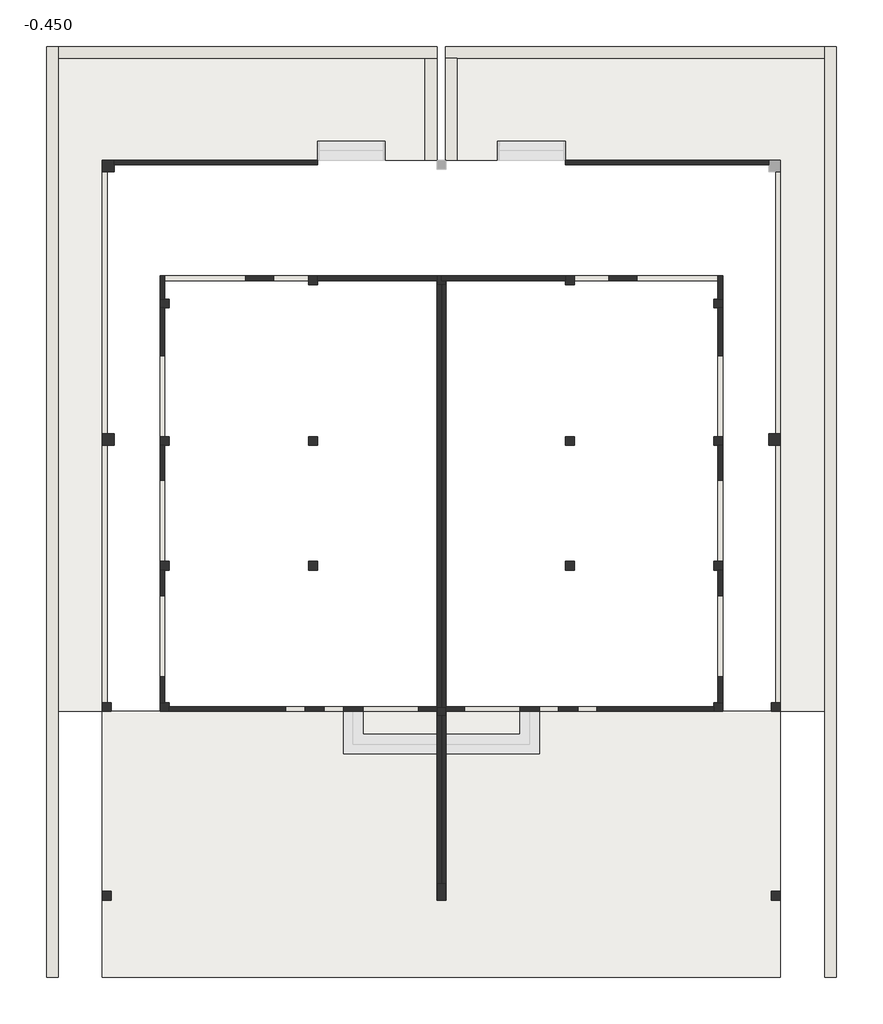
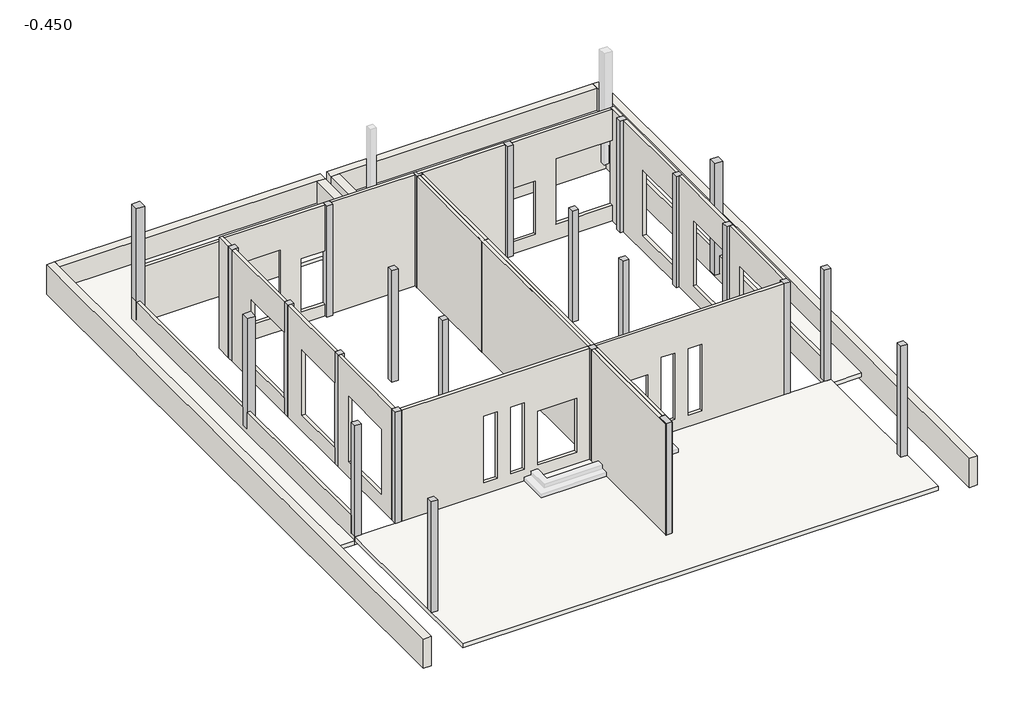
# One storey, part 1 of 2: 26 columns, 18 walls, 2 slabs.
"""IFC4 building model written with IfcOpenShell, lengths in millimetres."""

from ifc_helpers import new_model, si_unit, frame, origin, place, context, project, spatial, polyline, outline, extrude, faceted_brep, transform, mapped, element, save
from components import z2_b35763e6, z2_4422c3f5

model = new_model("IFC4")

# Units and contexts
model_context = context("Model", 3, world=origin())
ifc_project = project(units=[si_unit("LENGTHUNIT", "METRE", prefix="MILLI")], contexts=[model_context])

# Site, building, storey
site = spatial("IfcSite", under=ifc_project)
building = spatial("IfcBuilding", under=site)
storey = spatial("IfcBuildingStorey", under=building, Name="-0.450", Elevation=-450.0)

# Columns
placement = place(None, origin())
element("IfcColumn", 1, ObjectType="混凝土 - 矩形 - 柱 : Z1", at=placement, inside=storey, context=model_context, shape_type="Brep", body=[
    faceted_brep([(-7384.0293904, 9188.7732284, -450.0), (-7384.0293904, 8888.7732284, -450.0), (-7564.0293904, 8888.7732284, -450.0), (-7684.0293904, 8888.7732284, -450.0), (-7684.0293904, 9188.7732284, -450.0), (-7564.0293904, 9188.7732284, -450.0), (-7384.0293904, 9188.7732284, 3900.0), (-7384.0293904, 8888.7732284, 3900.0), (-7684.0293904, 8888.7732284, 3900.0), (-7684.0293904, 8888.7732284, 250.0), (-7684.0293904, 9188.7732284, 3900.0), (-7684.0293904, 9188.7732284, 250.0)], [[[0, 1, 2, 3, 4, 5]], [[6, 7, 1, 0]], [[7, 8, 9, 3, 2, 1]], [[8, 10, 11, 4, 3, 9]], [[10, 6, 0, 5, 4, 11]], [[6, 10, 8, 7]]]),
])
element("IfcColumn", 2, ObjectType="混凝土 - 矩形 - 柱 : Z1", at=placement, inside=storey, context=model_context, shape_type="Brep", body=[
    faceted_brep([(-7384.0293904, 16288.7732284, -450.0), (-7384.0293904, 16168.7732284, -450.0), (-7384.0293904, 15988.7732284, -450.0), (-7684.0293904, 15988.7732284, -450.0), (-7684.0293904, 16288.7732284, -450.0), (-7564.0293904, 16288.7732284, -450.0), (-7384.0293904, 16288.7732284, 3900.0), (-7384.0293904, 15988.7732284, 3900.0), (-7384.0293904, 16288.7732284, 1400.0), (-7684.0293904, 15988.7732284, 3900.0), (-7684.0293904, 16288.7732284, 3900.0)], [[[0, 1, 2, 3, 4, 5]], [[6, 7, 2, 1, 0, 8]], [[7, 9, 3, 2]], [[9, 10, 4, 3]], [[10, 6, 8, 0, 5, 4]], [[6, 10, 9, 7]]]),
])
element("IfcColumn", 3, ObjectType="混凝土 - 矩形 - 柱 : Z1", at=placement, inside=storey, context=model_context, shape_type="Brep", body=[
    faceted_brep([(9615.9706096, 9188.7732284, -450.0), (9795.9706096, 9188.7732284, -450.0), (9915.9706096, 9188.7732284, -450.0), (9915.9706096, 8888.7732284, -450.0), (9795.9706096, 8888.7732284, -450.0), (9615.9706096, 8888.7732284, -450.0), (9615.9706096, 9188.7732284, 3900.0), (9615.9706096, 8888.7732284, 3900.0), (9915.9706096, 8888.7732284, 250.0), (9915.9706096, 8888.7732284, 3900.0), (9915.9706096, 9188.7732284, 250.0), (9915.9706096, 9188.7732284, 3900.0)], [[[0, 1, 2, 3, 4, 5]], [[6, 0, 5, 7]], [[7, 5, 4, 3, 8, 9]], [[9, 8, 3, 2, 10, 11]], [[11, 10, 2, 1, 0, 6]], [[6, 7, 9, 11]]]),
])
element("IfcColumn", 4, ObjectType="混凝土 - 矩形 - 柱 : Z2", at=placement, inside=storey, context=model_context, shape_type="Brep", body=[
    faceted_brep([(-5954.0293904, 2218.7732284, -450.0), (-5954.0293904, 1988.7732284, -450.0), (-6184.0293904, 1988.7732284, -450.0), (-6184.0293904, 2218.7732284, -450.0), (-6064.0293904, 2218.7732284, -450.0), (-5954.0293904, 2218.7732284, 3900.0), (-5954.0293904, 1988.7732284, 3900.0), (-6184.0293904, 1988.7732284, 3900.0), (-6184.0293904, 2218.7732284, 3900.0), (-6064.0293904, 2218.7732284, 3900.0)], [[[0, 1, 2, 3, 4]], [[5, 6, 1, 0]], [[6, 7, 2, 1]], [[7, 8, 3, 2]], [[8, 9, 5, 0, 4, 3]], [[5, 9, 8, 7, 6]]]),
])
element("IfcColumn", 5, ObjectType="混凝土 - 矩形 - 柱 : Z2", at=placement, inside=storey, context=model_context, shape_type="Brep", body=[
    faceted_brep([(-7454.0293904, 2218.7732284, -450.0), (-7454.0293904, 1988.7732284, -450.0), (-7564.0293904, 1988.7732284, -450.0), (-7684.0293904, 1988.7732284, -450.0), (-7684.0293904, 2218.7732284, -450.0), (-7564.0293904, 2218.7732284, -450.0), (-7454.0293904, 2218.7732284, 3900.0), (-7454.0293904, 1988.7732284, 3900.0), (-7684.0293904, 1988.7732284, 3900.0), (-7684.0293904, 2218.7732284, 3900.0), (-7684.0293904, 2218.7732284, 250.0)], [[[0, 1, 2, 3, 4, 5]], [[6, 7, 1, 0]], [[7, 8, 3, 2, 1]], [[8, 9, 10, 4, 3]], [[9, 6, 0, 5, 4, 10]], [[6, 9, 8, 7]]]),
])
element("IfcColumn", 6, ObjectType="混凝土 - 矩形 - 柱 : Z2", at=placement, inside=storey, context=model_context, shape_type="Brep", body=[
    faceted_brep([(1230.9706096, 2103.7732284, -450.0), (1230.9706096, 1873.7732284, -450.0), (1115.9706096, 1873.7732284, -450.0), (1000.9706096, 1873.7732284, -450.0), (1000.9706096, 2103.7732284, -450.0), (1115.9706096, 2103.7732284, -450.0), (1230.9706096, 2103.7732284, 3900.0), (1230.9706096, 1873.7732284, 3900.0), (1115.9706096, 1873.7732284, 3900.0), (1000.9706096, 1873.7732284, 3900.0), (1000.9706096, 2103.7732284, 3900.0), (1115.9706096, 2103.7732284, 3900.0)], [[[0, 1, 2, 3, 4, 5]], [[6, 7, 1, 0]], [[7, 8, 9, 3, 2, 1]], [[9, 10, 4, 3]], [[10, 11, 6, 0, 5, 4]], [[6, 11, 10, 9, 8, 7]]]),
])
element("IfcColumn", 7, ObjectType="混凝土 - 矩形 - 柱 : Z2", at=placement, inside=storey, context=model_context, shape_type="Brep", body=[
    faceted_brep([(-5954.0293904, 5888.7732284, -450.0), (-5954.0293904, 5658.7732284, -450.0), (-6064.0293904, 5658.7732284, -450.0), (-6184.0293904, 5658.7732284, -450.0), (-6184.0293904, 5888.7732284, -450.0), (-6064.0293904, 5888.7732284, -450.0), (-5954.0293904, 5888.7732284, 3900.0), (-5954.0293904, 5658.7732284, 3900.0), (-6064.0293904, 5658.7732284, 3900.0), (-6184.0293904, 5658.7732284, 3900.0), (-6184.0293904, 5888.7732284, 3900.0), (-6184.0293904, 5888.7732284, 2700.0), (-6184.0293904, 5888.7732284, 150.0), (-6064.0293904, 5888.7732284, 3900.0)], [[[0, 1, 2, 3, 4, 5]], [[6, 7, 1, 0]], [[7, 8, 9, 3, 2, 1]], [[9, 10, 11, 12, 4, 3]], [[10, 13, 6, 0, 5, 4, 12, 11]], [[6, 13, 10, 9, 8, 7]]]),
])
element("IfcColumn", 8, ObjectType="混凝土 - 矩形 - 柱 : Z2", at=placement, inside=storey, context=model_context, shape_type="Brep", body=[
    faceted_brep([(-5954.0293904, 9118.7732284, -450.0), (-5954.0293904, 8888.7732284, -450.0), (-6064.0293904, 8888.7732284, -450.0), (-6184.0293904, 8888.7732284, -450.0), (-6184.0293904, 9118.7732284, -450.0), (-6064.0293904, 9118.7732284, -450.0), (-5954.0293904, 9118.7732284, 3900.0), (-5954.0293904, 8888.7732284, 3900.0), (-6064.0293904, 8888.7732284, 3900.0), (-6184.0293904, 8888.7732284, 3900.0), (-6184.0293904, 9118.7732284, 3900.0), (-6184.0293904, 9118.7732284, 2700.0), (-6184.0293904, 9118.7732284, 150.0), (-6064.0293904, 9118.7732284, 3900.0)], [[[0, 1, 2, 3, 4, 5]], [[6, 7, 1, 0]], [[7, 8, 9, 3, 2, 1]], [[9, 10, 11, 12, 4, 3]], [[10, 13, 6, 0, 5, 4, 12, 11]], [[6, 13, 10, 9, 8, 7]]]),
])
element("IfcColumn", 9, ObjectType="混凝土 - 矩形 - 柱 : Z2", at=placement, inside=storey, context=model_context, shape_type="Brep", body=[
    faceted_brep([(-2104.0293904, 13288.7732284, -450.0), (-2104.0293904, 13168.7732284, -450.0), (-2104.0293904, 13058.7732284, -450.0), (-2334.0293904, 13058.7732284, -450.0), (-2334.0293904, 13168.7732284, -450.0), (-2334.0293904, 13288.7732284, -450.0), (-2104.0293904, 13288.7732284, 3900.0), (-2104.0293904, 13168.7732284, 3900.0), (-2104.0293904, 13058.7732284, 3900.0), (-2334.0293904, 13058.7732284, 3900.0), (-2334.0293904, 13168.7732284, 3900.0), (-2334.0293904, 13288.7732284, 3900.0), (-2334.0293904, 13288.7732284, 2100.0), (-2334.0293904, 13288.7732284, 0.0)], [[[0, 1, 2, 3, 4, 5]], [[6, 7, 8, 2, 1, 0]], [[8, 9, 3, 2]], [[9, 10, 11, 12, 13, 5, 4, 3]], [[11, 6, 0, 5, 13, 12]], [[6, 11, 10, 9, 8, 7]]]),
])
element("IfcColumn", 10, ObjectType="混凝土 - 矩形 - 柱 : Z2", at=placement, inside=storey, context=model_context, shape_type="Brep", body=[
    faceted_brep([(1230.9706096, 13288.7732284, -450.0), (1230.9706096, 13168.7732284, -450.0), (1230.9706096, 13058.7732284, -450.0), (1115.9706096, 13058.7732284, -450.0), (1000.9706096, 13058.7732284, -450.0), (1000.9706096, 13168.7732284, -450.0), (1000.9706096, 13288.7732284, -450.0), (1230.9706096, 13288.7732284, 3900.0), (1230.9706096, 13168.7732284, 3900.0), (1230.9706096, 13058.7732284, 3900.0), (1230.9706096, 13288.7732284, 0.0), (1115.9706096, 13058.7732284, 3900.0), (1000.9706096, 13058.7732284, 3900.0), (1000.9706096, 13168.7732284, 3900.0), (1000.9706096, 13288.7732284, 3900.0), (1110.9706096, 13288.7732284, 3900.0)], [[[0, 1, 2, 3, 4, 5, 6]], [[7, 8, 9, 2, 1, 0, 10]], [[9, 11, 12, 4, 3, 2]], [[12, 13, 14, 6, 5, 4]], [[14, 15, 7, 10, 0, 6]], [[7, 15, 14, 13, 12, 11, 9, 8]]]),
])
element("IfcColumn", 11, ObjectType="混凝土 - 矩形 - 柱 : Z2", at=placement, inside=storey, context=model_context, shape_type="Brep", body=[
    faceted_brep([(-5954.0293904, 12688.7732284, -450.0), (-5954.0293904, 12458.7732284, -450.0), (-6064.0293904, 12458.7732284, -450.0), (-6184.0293904, 12458.7732284, -450.0), (-6184.0293904, 12688.7732284, -450.0), (-6064.0293904, 12688.7732284, -450.0), (-5954.0293904, 12688.7732284, 3900.0), (-5954.0293904, 12458.7732284, 3900.0), (-6064.0293904, 12458.7732284, 3900.0), (-6184.0293904, 12458.7732284, 3900.0), (-6184.0293904, 12688.7732284, 3900.0), (-6064.0293904, 12688.7732284, 3900.0)], [[[0, 1, 2, 3, 4, 5]], [[6, 7, 1, 0]], [[7, 8, 9, 3, 2, 1]], [[9, 10, 4, 3]], [[10, 11, 6, 0, 5, 4]], [[6, 11, 10, 9, 8, 7]]]),
])
element("IfcColumn", 12, ObjectType="混凝土 - 矩形 - 柱 : Z2", at=placement, inside=storey, context=model_context, shape_type="Brep", body=[
    faceted_brep([(8185.9706096, 2218.7732284, -450.0), (8295.9706096, 2218.7732284, -450.0), (8415.9706096, 2218.7732284, -450.0), (8415.9706096, 1988.7732284, -450.0), (8185.9706096, 1988.7732284, -450.0), (8185.9706096, 2108.7732284, -450.0), (8185.9706096, 2218.7732284, 3900.0), (8185.9706096, 1988.7732284, 3900.0), (8185.9706096, 2108.7732284, 3900.0), (8415.9706096, 1988.7732284, 3900.0), (8415.9706096, 2218.7732284, 3900.0), (8295.9706096, 2218.7732284, 3900.0)], [[[0, 1, 2, 3, 4, 5]], [[6, 0, 5, 4, 7, 8]], [[7, 4, 3, 9]], [[9, 3, 2, 10]], [[10, 2, 1, 0, 6, 11]], [[6, 8, 7, 9, 10, 11]]]),
])
element("IfcColumn", 13, ObjectType="混凝土 - 矩形 - 柱 : Z2", at=placement, inside=storey, context=model_context, shape_type="Brep", body=[
    faceted_brep([(9685.9706096, 2218.7732284, -450.0), (9795.9706096, 2218.7732284, -450.0), (9915.9706096, 2218.7732284, -450.0), (9915.9706096, 1988.7732284, -450.0), (9795.9706096, 1988.7732284, -450.0), (9685.9706096, 1988.7732284, -450.0), (9685.9706096, 2218.7732284, 3900.0), (9685.9706096, 1988.7732284, 3900.0), (9915.9706096, 1988.7732284, 3900.0), (9915.9706096, 2218.7732284, 250.0), (9915.9706096, 2218.7732284, 3900.0)], [[[0, 1, 2, 3, 4, 5]], [[6, 0, 5, 7]], [[7, 5, 4, 3, 8]], [[8, 3, 2, 9, 10]], [[10, 9, 2, 1, 0, 6]], [[6, 7, 8, 10]]]),
])
element("IfcColumn", 14, ObjectType="混凝土 - 矩形 - 柱 : Z2", at=placement, inside=storey, context=model_context, shape_type="Brep", body=[
    faceted_brep([(8185.9706096, 5888.7732284, -450.0), (8295.9706096, 5888.7732284, -450.0), (8415.9706096, 5888.7732284, -450.0), (8415.9706096, 5658.7732284, -450.0), (8295.9706096, 5658.7732284, -450.0), (8185.9706096, 5658.7732284, -450.0), (8185.9706096, 5888.7732284, 3900.0), (8185.9706096, 5658.7732284, 3900.0), (8415.9706096, 5658.7732284, 3900.0), (8295.9706096, 5658.7732284, 3900.0), (8415.9706096, 5888.7732284, 150.0), (8415.9706096, 5888.7732284, 2700.0), (8415.9706096, 5888.7732284, 3900.0), (8295.9706096, 5888.7732284, 3900.0)], [[[0, 1, 2, 3, 4, 5]], [[6, 0, 5, 7]], [[7, 5, 4, 3, 8, 9]], [[8, 3, 2, 10, 11, 12]], [[12, 11, 10, 2, 1, 0, 6, 13]], [[6, 7, 9, 8, 12, 13]]]),
])
element("IfcColumn", 15, ObjectType="混凝土 - 矩形 - 柱 : Z2", at=placement, inside=storey, context=model_context, shape_type="Brep", body=[
    faceted_brep([(8185.9706096, 9118.7732284, -450.0), (8295.9706096, 9118.7732284, -450.0), (8415.9706096, 9118.7732284, -450.0), (8415.9706096, 8888.7732284, -450.0), (8295.9706096, 8888.7732284, -450.0), (8185.9706096, 8888.7732284, -450.0), (8185.9706096, 9118.7732284, 3900.0), (8185.9706096, 8888.7732284, 3900.0), (8415.9706096, 8888.7732284, 3900.0), (8295.9706096, 8888.7732284, 3900.0), (8415.9706096, 9118.7732284, 150.0), (8415.9706096, 9118.7732284, 2700.0), (8415.9706096, 9118.7732284, 3900.0), (8295.9706096, 9118.7732284, 3900.0)], [[[0, 1, 2, 3, 4, 5]], [[6, 0, 5, 7]], [[7, 5, 4, 3, 8, 9]], [[8, 3, 2, 10, 11, 12]], [[12, 11, 10, 2, 1, 0, 6, 13]], [[6, 7, 9, 8, 12, 13]]]),
])
element("IfcColumn", 16, ObjectType="混凝土 - 矩形 - 柱 : Z2", at=placement, inside=storey, context=model_context, shape_type="Brep", body=[
    faceted_brep([(4335.9706096, 9118.7732284, -450.0), (4565.9706096, 9118.7732284, -450.0), (4565.9706096, 8888.7732284, -450.0), (4335.9706096, 8888.7732284, -450.0), (4335.9706096, 9118.7732284, 3900.0), (4335.9706096, 9118.7732284, 2100.0), (4335.9706096, 9118.7732284, 0.0), (4335.9706096, 8888.7732284, 0.0), (4335.9706096, 8888.7732284, 3900.0), (4335.9706096, 9008.7732284, 3900.0), (4565.9706096, 8888.7732284, 3900.0), (4565.9706096, 9118.7732284, 3900.0), (4395.9706096, 9118.7732284, 3900.0)], [[[0, 1, 2, 3]], [[4, 5, 6, 0, 3, 7, 8, 9]], [[8, 7, 3, 2, 10]], [[10, 2, 1, 11]], [[11, 1, 0, 6, 5, 4, 12]], [[4, 9, 8, 10, 11, 12]]]),
])
element("IfcColumn", 17, ObjectType="混凝土 - 矩形 - 柱 : Z2", at=placement, inside=storey, context=model_context, shape_type="Brep", body=[
    faceted_brep([(4335.9706096, 13288.7732284, -450.0), (4565.9706096, 13288.7732284, -450.0), (4565.9706096, 13168.7732284, -450.0), (4565.9706096, 13058.7732284, -450.0), (4335.9706096, 13058.7732284, -450.0), (4335.9706096, 13168.7732284, -450.0), (4335.9706096, 13288.7732284, 3900.0), (4335.9706096, 13058.7732284, 0.0), (4335.9706096, 13058.7732284, 3900.0), (4335.9706096, 13168.7732284, 3900.0), (4565.9706096, 13058.7732284, 3900.0), (4395.9706096, 13058.7732284, 3900.0), (4565.9706096, 13288.7732284, 0.0), (4565.9706096, 13288.7732284, 2100.0), (4565.9706096, 13288.7732284, 3900.0), (4565.9706096, 13168.7732284, 3900.0)], [[[0, 1, 2, 3, 4, 5]], [[6, 0, 5, 4, 7, 8, 9]], [[8, 7, 4, 3, 10, 11]], [[10, 3, 2, 1, 12, 13, 14, 15]], [[14, 13, 12, 1, 0, 6]], [[6, 9, 8, 11, 10, 15, 14]]]),
])
element("IfcColumn", 18, ObjectType="混凝土 - 矩形 - 柱 : Z2", at=placement, inside=storey, context=model_context, shape_type="Brep", body=[
    faceted_brep([(8185.9706096, 12688.7732284, -450.0), (8295.9706096, 12688.7732284, -450.0), (8415.9706096, 12688.7732284, -450.0), (8415.9706096, 12458.7732284, -450.0), (8295.9706096, 12458.7732284, -450.0), (8185.9706096, 12458.7732284, -450.0), (8185.9706096, 12688.7732284, 3900.0), (8185.9706096, 12458.7732284, 3900.0), (8415.9706096, 12458.7732284, 3900.0), (8295.9706096, 12458.7732284, 3900.0), (8415.9706096, 12688.7732284, 3900.0), (8295.9706096, 12688.7732284, 3900.0)], [[[0, 1, 2, 3, 4, 5]], [[6, 0, 5, 7]], [[7, 5, 4, 3, 8, 9]], [[8, 3, 2, 10]], [[10, 2, 1, 0, 6, 11]], [[6, 7, 9, 8, 10, 11]]]),
])
z2_shape = z2_b35763e6(model_context)
element("IfcColumn", 19, ObjectType="混凝土 - 矩形 - 柱 : Z2", at=placement, inside=storey, context=model_context, shape_type="MappedRepresentation", body=[
    mapped(z2_shape, transform((-7569.0293904, -2796.2267716, 0.0), x_axis=(1.0, 0.0, 0.0), y_axis=(0.0, 1.0, 0.0), z_axis=(0.0, 0.0, 1.0))),
])
element("IfcColumn", 20, ObjectType="混凝土 - 矩形 - 柱 : Z2", at=placement, inside=storey, context=model_context, shape_type="MappedRepresentation", body=[
    mapped(z2_shape, transform((-2219.0293904, 5773.7732284, 0.0), x_axis=(1.0, 0.0, 0.0), y_axis=(0.0, 1.0, 0.0), z_axis=(0.0, 0.0, 1.0))),
])
element("IfcColumn", 21, ObjectType="混凝土 - 矩形 - 柱 : Z2", at=placement, inside=storey, context=model_context, shape_type="MappedRepresentation", body=[
    mapped(z2_shape, transform((1115.9706096, 5773.7732284, 0.0), x_axis=(1.0, 0.0, 0.0), y_axis=(0.0, 1.0, 0.0), z_axis=(0.0, 0.0, 1.0))),
])
element("IfcColumn", 22, ObjectType="混凝土 - 矩形 - 柱 : Z2", at=placement, inside=storey, context=model_context, shape_type="MappedRepresentation", body=[
    mapped(z2_shape, transform((-2219.0293904, 9003.7732284, 0.0), x_axis=(1.0, 0.0, 0.0), y_axis=(0.0, 1.0, 0.0), z_axis=(0.0, 0.0, 1.0))),
])
element("IfcColumn", 23, ObjectType="混凝土 - 矩形 - 柱 : Z2", at=placement, inside=storey, context=model_context, shape_type="MappedRepresentation", body=[
    mapped(z2_shape, transform((1115.9706096, 9003.7732284, 0.0), x_axis=(1.0, 0.0, 0.0), y_axis=(0.0, 1.0, 0.0), z_axis=(0.0, 0.0, 1.0))),
])
z2_2_shape = z2_4422c3f5(model_context)
element("IfcColumn", 24, ObjectType="混凝土 - 矩形 - 柱 : Z2", at=placement, inside=storey, context=model_context, shape_type="MappedRepresentation", body=[
    mapped(z2_2_shape, transform((9800.9706096, -2796.2267716, 0.0), x_axis=(-1.0, 0.0, 0.0), y_axis=(0.0, -1.0, 0.0), z_axis=(0.0, 0.0, 1.0))),
])
element("IfcColumn", 25, ObjectType="混凝土 - 矩形 - 柱 : Z2", at=placement, inside=storey, context=model_context, shape_type="MappedRepresentation", body=[
    mapped(z2_2_shape, transform((4450.9706096, 5773.7732284, 0.0), x_axis=(-1.0, 0.0, 0.0), y_axis=(0.0, -1.0, 0.0), z_axis=(0.0, 0.0, 1.0))),
])
element("IfcColumn", 26, ObjectType="混凝土 - 矩形 - 柱 : Z3", at=placement, inside=storey, context=model_context, shape_type="Brep", body=[
    faceted_brep([(1000.9706096, -2461.2267716, -450.0), (1115.9706096, -2461.2267716, -450.0), (1230.9706096, -2461.2267716, -450.0), (1230.9706096, -2911.2267716, -450.0), (1000.9706096, -2911.2267716, -450.0), (1000.9706096, -2461.2267716, 3900.0), (1115.9706096, -2461.2267716, 3900.0), (1230.9706096, -2461.2267716, 3900.0), (1230.9706096, -2911.2267716, 3900.0), (1000.9706096, -2911.2267716, 3900.0)], [[[0, 1, 2, 3, 4]], [[5, 6, 7, 2, 1, 0]], [[7, 8, 3, 2]], [[8, 9, 4, 3]], [[9, 5, 0, 4]], [[5, 9, 8, 7, 6]]]),
])

# Slabs
element("IfcSlab", 27, ObjectType="常规 - 150mm", at=placement, inside=storey, context=model_context, shape_type="SweptSolid", body=[
    extrude(outline(polyline([(695.9706096, 18938.7732284), (695.9706096, 16288.7732284), (-7684.0293904, 16288.7732284), (-7684.0293904, 1988.7732284), (-8834.0293904, 1988.7732284), (-8834.0293904, 18938.7732284), (695.9706096, 18938.7732284)])), frame((0.0, 0.0, -750.0), z_axis=(0.0, 0.0, 1.0), x_axis=(1.0, 0.0, 0.0)), (0.0, 0.0, 1.0), 150.0),
    extrude(outline(polyline([(1525.9706096, 18938.7732284), (11065.9706096, 18938.7732284), (11065.9706096, 1988.7732284), (9915.9706096, 1988.7732284), (9915.9706096, 16288.7732284), (1525.9706096, 16288.7732284), (1525.9706096, 18938.7732284)])), frame((0.0, 0.0, -750.0), z_axis=(0.0, 0.0, 1.0), x_axis=(1.0, 0.0, 0.0)), (0.0, 0.0, 1.0), 150.0),
])
element("IfcSlab", 28, ObjectType="常规 - 150mm", at=placement, inside=storey, context=model_context, shape_type="SweptSolid", body=[
    extrude(outline(polyline([(9915.9706096, 1988.7732284), (9915.9706096, -4911.2267716), (-7684.0293904, -4911.2267716), (-7684.0293904, 1988.7732284), (9915.9706096, 1988.7732284)])), frame((0.0, 0.0, -600.0), z_axis=(0.0, 0.0, 1.0), x_axis=(1.0, 0.0, 0.0)), (0.0, 0.0, 1.0), 150.0),
])

# Walls
element("IfcWall", 29, ObjectType="墙", at=placement, inside=storey, context=model_context, shape_type="Brep", body=[
    faceted_brep([(-6064.0293904, 13288.7732284, -450.0), (-6064.0293904, 13288.7732284, 150.0), (-6064.0293904, 13288.7732284, 2700.0), (-6064.0293904, 13288.7732284, 3900.0), (-6064.0293904, 13168.7732284, 3900.0), (-6064.0293904, 12688.7732284, 3900.0), (-6064.0293904, 12688.7732284, -450.0), (-6064.0293904, 13168.7732284, -450.0), (-6184.0293904, 13288.7732284, 3900.0), (-6184.0293904, 13288.7732284, -450.0), (-6184.0293904, 12688.7732284, -450.0), (-6184.0293904, 12688.7732284, 3900.0)], [[[0, 1, 2, 3, 4, 5, 6, 7]], [[8, 9, 10, 11]], [[9, 0, 7, 6, 10]], [[3, 8, 11, 5, 4]], [[3, 2, 1, 0, 9, 8]], [[6, 5, 11, 10]]]),
    faceted_brep([(-6064.0293904, 11218.7732284, 2700.0), (-6064.0293904, 11218.7732284, 150.0), (-6064.0293904, 9118.7732284, 150.0), (-6064.0293904, 9118.7732284, -450.0), (-6064.0293904, 12458.7732284, -450.0), (-6064.0293904, 12458.7732284, 3900.0), (-6064.0293904, 9118.7732284, 3900.0), (-6064.0293904, 9118.7732284, 2700.0), (-6184.0293904, 11218.7732284, 150.0), (-6184.0293904, 11218.7732284, 2700.0), (-6184.0293904, 9118.7732284, 2700.0), (-6184.0293904, 9118.7732284, 3900.0), (-6184.0293904, 12458.7732284, 3900.0), (-6184.0293904, 12458.7732284, -450.0), (-6184.0293904, 9118.7732284, -450.0), (-6184.0293904, 9118.7732284, 150.0)], [[[0, 1, 2, 3, 4, 5, 6, 7]], [[8, 9, 10, 11, 12, 13, 14, 15]], [[13, 4, 3, 14]], [[5, 12, 11, 6]], [[1, 0, 9, 8]], [[2, 1, 8, 15]], [[0, 7, 10, 9]], [[5, 4, 13, 12]], [[3, 2, 15, 14]], [[7, 6, 11, 10]]]),
    faceted_brep([(-6064.0293904, 7988.7732284, 2700.0), (-6064.0293904, 7988.7732284, 150.0), (-6064.0293904, 5888.7732284, 150.0), (-6064.0293904, 5888.7732284, -450.0), (-6064.0293904, 8888.7732284, -450.0), (-6064.0293904, 8888.7732284, 3900.0), (-6064.0293904, 5888.7732284, 3900.0), (-6064.0293904, 5888.7732284, 2700.0), (-6184.0293904, 7988.7732284, 150.0), (-6184.0293904, 7988.7732284, 2700.0), (-6184.0293904, 5888.7732284, 2700.0), (-6184.0293904, 5888.7732284, 3900.0), (-6184.0293904, 8888.7732284, 3900.0), (-6184.0293904, 8888.7732284, -450.0), (-6184.0293904, 5888.7732284, -450.0), (-6184.0293904, 5888.7732284, 150.0)], [[[0, 1, 2, 3, 4, 5, 6, 7]], [[8, 9, 10, 11, 12, 13, 14, 15]], [[13, 4, 3, 14]], [[5, 12, 11, 6]], [[1, 0, 9, 8]], [[2, 1, 8, 15]], [[0, 7, 10, 9]], [[5, 4, 13, 12]], [[3, 2, 15, 14]], [[7, 6, 11, 10]]]),
    faceted_brep([(-6064.0293904, 5658.7732284, -450.0), (-6064.0293904, 5658.7732284, 3900.0), (-6064.0293904, 2218.7732284, 3900.0), (-6064.0293904, 2218.7732284, -450.0), (-6064.0293904, 4988.7732284, 2700.0), (-6064.0293904, 4988.7732284, 150.0), (-6064.0293904, 2888.7732284, 150.0), (-6064.0293904, 2888.7732284, 2700.0), (-6184.0293904, 5658.7732284, 3900.0), (-6184.0293904, 5658.7732284, -450.0), (-6184.0293904, 2218.7732284, -450.0), (-6184.0293904, 2218.7732284, 3900.0), (-6184.0293904, 4988.7732284, 150.0), (-6184.0293904, 4988.7732284, 2700.0), (-6184.0293904, 2888.7732284, 2700.0), (-6184.0293904, 2888.7732284, 150.0)], [[[0, 1, 2, 3], [4, 5, 6, 7]], [[8, 9, 10, 11], [12, 13, 14, 15]], [[9, 0, 3, 10]], [[1, 8, 11, 2]], [[5, 4, 13, 12]], [[6, 5, 12, 15]], [[7, 6, 15, 14]], [[4, 7, 14, 13]], [[1, 0, 9, 8]], [[3, 2, 11, 10]]]),
])
element("IfcWall", 30, ObjectType="墙", at=placement, inside=storey, context=model_context, shape_type="Brep", body=[
    faceted_brep([(-3964.0293904, 13168.7732284, 2700.0), (-3964.0293904, 13168.7732284, 150.0), (-6064.0293904, 13168.7732284, 150.0), (-6064.0293904, 13168.7732284, -450.0), (-2334.0293904, 13168.7732284, -450.0), (-2334.0293904, 13168.7732284, 0.0), (-3234.0293904, 13168.7732284, 0.0), (-3234.0293904, 13168.7732284, 2100.0), (-2334.0293904, 13168.7732284, 2100.0), (-2334.0293904, 13168.7732284, 3900.0), (-6064.0293904, 13168.7732284, 3900.0), (-6064.0293904, 13168.7732284, 2700.0), (-3964.0293904, 13288.7732284, 150.0), (-3964.0293904, 13288.7732284, 2700.0), (-6064.0293904, 13288.7732284, 2700.0), (-6064.0293904, 13288.7732284, 3900.0), (-2334.0293904, 13288.7732284, 3900.0), (-2334.0293904, 13288.7732284, 2100.0), (-3234.0293904, 13288.7732284, 2100.0), (-3234.0293904, 13288.7732284, 0.0), (-2334.0293904, 13288.7732284, 0.0), (-2334.0293904, 13288.7732284, -450.0), (-6064.0293904, 13288.7732284, -450.0), (-6064.0293904, 13288.7732284, 150.0)], [[[0, 1, 2, 3, 4, 5, 6, 7, 8, 9, 10, 11]], [[12, 13, 14, 15, 16, 17, 18, 19, 20, 21, 22, 23]], [[3, 22, 21, 4]], [[15, 10, 9, 16]], [[10, 15, 14, 11]], [[22, 3, 2, 23]], [[1, 0, 13, 12]], [[2, 1, 12, 23]], [[0, 11, 14, 13]], [[18, 17, 8, 7]], [[19, 18, 7, 6]], [[20, 19, 6, 5]], [[5, 4, 21, 20]], [[9, 8, 17, 16]]]),
    faceted_brep([(1000.9706096, 13168.7732284, -450.0), (1000.9706096, 13168.7732284, 3900.0), (995.9706096, 13168.7732284, 3900.0), (-2044.0293904, 13168.7732284, 3900.0), (-2104.0293904, 13168.7732284, 3900.0), (-2104.0293904, 13168.7732284, -450.0), (995.9706096, 13168.7732284, -450.0), (1000.9706096, 13288.7732284, 3900.0), (1000.9706096, 13288.7732284, -450.0), (-2104.0293904, 13288.7732284, -450.0), (-2104.0293904, 13288.7732284, 3900.0)], [[[0, 1, 2, 3, 4, 5, 6]], [[7, 8, 9, 10]], [[8, 0, 6, 5, 9]], [[1, 7, 10, 4, 3, 2]], [[1, 0, 8, 7]], [[5, 4, 10, 9]]]),
])
element("IfcWall", 31, ObjectType="墙", at=placement, inside=storey, context=model_context, shape_type="Brep", body=[
    faceted_brep([(995.9706096, 13168.7732284, -450.0), (995.9706096, 2108.7732284, -450.0), (995.9706096, 1988.7732284, -450.0), (995.9706096, -2911.2267716, -450.0), (995.9706096, -2911.2267716, 3900.0), (995.9706096, 1988.7732284, 3900.0), (995.9706096, 2108.7732284, 3900.0), (995.9706096, 5768.7732284, 3900.0), (995.9706096, 5888.7732284, 3900.0), (995.9706096, 8888.7732284, 3900.0), (995.9706096, 9008.7732284, 3900.0), (995.9706096, 13168.7732284, 3900.0), (1115.9706096, -2461.2267716, 3900.0), (1115.9706096, -2461.2267716, -450.0), (1115.9706096, 1873.7732284, -450.0), (1115.9706096, 1873.7732284, 3900.0), (1115.9706096, 13058.7732284, -450.0), (1115.9706096, 13058.7732284, 3900.0), (1115.9706096, 9008.7732284, 3900.0), (1115.9706096, 8888.7732284, 3900.0), (1115.9706096, 5888.7732284, 3900.0), (1115.9706096, 5768.7732284, 3900.0), (1115.9706096, 2103.7732284, 3900.0), (1115.9706096, 2103.7732284, -450.0), (1000.9706096, 13168.7732284, -450.0), (1000.9706096, 13058.7732284, -450.0), (1000.9706096, 2103.7732284, -450.0), (1000.9706096, 1873.7732284, -450.0), (1000.9706096, -2461.2267716, -450.0), (1000.9706096, -2911.2267716, -450.0), (1000.9706096, -2911.2267716, 3900.0), (1000.9706096, -2461.2267716, 3900.0), (1000.9706096, 1873.7732284, 3900.0), (1000.9706096, 2103.7732284, 3900.0), (1000.9706096, 13058.7732284, 3900.0), (1000.9706096, 13168.7732284, 3900.0)], [[[0, 1, 2, 3, 4, 5, 6, 7, 8, 9, 10, 11]], [[12, 13, 14, 15]], [[16, 17, 18, 19, 20, 21, 22, 23]], [[3, 2, 1, 0, 24, 25, 16, 23, 26, 27, 14, 13, 28, 29]], [[4, 3, 29, 30]], [[11, 10, 9, 8, 7, 6, 5, 4, 30, 31, 12, 15, 32, 33, 22, 21, 20, 19, 18, 17, 34, 35]], [[0, 11, 35, 24]], [[31, 28, 13, 12]], [[28, 31, 30, 29]], [[25, 34, 17, 16]], [[34, 25, 24, 35]], [[27, 32, 15, 14]], [[32, 27, 26, 33]], [[33, 26, 23, 22]]]),
])
element("IfcWall", 32, ObjectType="墙", at=placement, inside=storey, context=model_context, shape_type="Brep", body=[
    faceted_brep([(8415.9706096, 13288.7732284, -450.0), (8415.9706096, 13288.7732284, 3900.0), (8415.9706096, 12688.7732284, 3900.0), (8415.9706096, 12688.7732284, -450.0), (8295.9706096, 13288.7732284, 3900.0), (8295.9706096, 13288.7732284, 2700.0), (8295.9706096, 13288.7732284, 150.0), (8295.9706096, 13288.7732284, -450.0), (8295.9706096, 13168.7732284, -450.0), (8295.9706096, 12688.7732284, -450.0), (8295.9706096, 12688.7732284, 3900.0), (8295.9706096, 13168.7732284, 3900.0)], [[[0, 1, 2, 3]], [[4, 5, 6, 7, 8, 9, 10, 11]], [[7, 0, 3, 9, 8]], [[1, 4, 11, 10, 2]], [[1, 0, 7, 6, 5, 4]], [[3, 2, 10, 9]]]),
    faceted_brep([(8415.9706096, 7988.7732284, 2700.0), (8415.9706096, 7988.7732284, 150.0), (8415.9706096, 5888.7732284, 150.0), (8415.9706096, 5888.7732284, -450.0), (8415.9706096, 8888.7732284, -450.0), (8415.9706096, 8888.7732284, 3900.0), (8415.9706096, 5888.7732284, 3900.0), (8415.9706096, 5888.7732284, 2700.0), (8295.9706096, 7988.7732284, 150.0), (8295.9706096, 7988.7732284, 2700.0), (8295.9706096, 5888.7732284, 2700.0), (8295.9706096, 5888.7732284, 3900.0), (8295.9706096, 8888.7732284, 3900.0), (8295.9706096, 8888.7732284, -450.0), (8295.9706096, 5888.7732284, -450.0), (8295.9706096, 5888.7732284, 150.0)], [[[0, 1, 2, 3, 4, 5, 6, 7]], [[8, 9, 10, 11, 12, 13, 14, 15]], [[3, 14, 13, 4]], [[11, 6, 5, 12]], [[1, 0, 9, 8]], [[2, 1, 8, 15]], [[0, 7, 10, 9]], [[7, 6, 11, 10]], [[3, 2, 15, 14]], [[5, 4, 13, 12]]]),
    faceted_brep([(8415.9706096, 11218.7732284, 2700.0), (8415.9706096, 11218.7732284, 150.0), (8415.9706096, 9118.7732284, 150.0), (8415.9706096, 9118.7732284, -450.0), (8415.9706096, 12458.7732284, -450.0), (8415.9706096, 12458.7732284, 3900.0), (8415.9706096, 9118.7732284, 3900.0), (8415.9706096, 9118.7732284, 2700.0), (8295.9706096, 11218.7732284, 150.0), (8295.9706096, 11218.7732284, 2700.0), (8295.9706096, 9118.7732284, 2700.0), (8295.9706096, 9118.7732284, 3900.0), (8295.9706096, 12458.7732284, 3900.0), (8295.9706096, 12458.7732284, -450.0), (8295.9706096, 9118.7732284, -450.0), (8295.9706096, 9118.7732284, 150.0)], [[[0, 1, 2, 3, 4, 5, 6, 7]], [[8, 9, 10, 11, 12, 13, 14, 15]], [[3, 14, 13, 4]], [[11, 6, 5, 12]], [[1, 0, 9, 8]], [[2, 1, 8, 15]], [[0, 7, 10, 9]], [[7, 6, 11, 10]], [[3, 2, 15, 14]], [[5, 4, 13, 12]]]),
    faceted_brep([(8415.9706096, 2218.7732284, 3900.0), (8415.9706096, 2218.7732284, -450.0), (8415.9706096, 5658.7732284, -450.0), (8415.9706096, 5658.7732284, 3900.0), (8415.9706096, 4988.7732284, 2700.0), (8415.9706096, 4988.7732284, 150.0), (8415.9706096, 2888.7732284, 150.0), (8415.9706096, 2888.7732284, 2700.0), (8295.9706096, 2218.7732284, -450.0), (8295.9706096, 2218.7732284, 3900.0), (8295.9706096, 5658.7732284, 3900.0), (8295.9706096, 5658.7732284, -450.0), (8295.9706096, 4988.7732284, 150.0), (8295.9706096, 4988.7732284, 2700.0), (8295.9706096, 2888.7732284, 2700.0), (8295.9706096, 2888.7732284, 150.0)], [[[0, 1, 2, 3], [4, 5, 6, 7]], [[8, 9, 10, 11], [12, 13, 14, 15]], [[1, 8, 11, 2]], [[9, 0, 3, 10]], [[5, 4, 13, 12]], [[6, 5, 12, 15]], [[7, 6, 15, 14]], [[4, 7, 14, 13]], [[1, 0, 9, 8]], [[3, 2, 11, 10]]]),
])
element("IfcWall", 33, ObjectType="墙", at=placement, inside=storey, context=model_context, shape_type="Brep", body=[
    faceted_brep([(6195.9706096, 13288.7732284, 2700.0), (6195.9706096, 13288.7732284, 150.0), (8295.9706096, 13288.7732284, 150.0), (8295.9706096, 13288.7732284, -450.0), (4565.9706096, 13288.7732284, -450.0), (4565.9706096, 13288.7732284, 0.0), (5465.9706096, 13288.7732284, 0.0), (5465.9706096, 13288.7732284, 2100.0), (4565.9706096, 13288.7732284, 2100.0), (4565.9706096, 13288.7732284, 3900.0), (8295.9706096, 13288.7732284, 3900.0), (8295.9706096, 13288.7732284, 2700.0), (6195.9706096, 13168.7732284, 150.0), (6195.9706096, 13168.7732284, 2700.0), (8295.9706096, 13168.7732284, 2700.0), (8295.9706096, 13168.7732284, 3900.0), (4565.9706096, 13168.7732284, 3900.0), (4565.9706096, 13168.7732284, 2100.0), (5465.9706096, 13168.7732284, 2100.0), (5465.9706096, 13168.7732284, 0.0), (4565.9706096, 13168.7732284, 0.0), (4565.9706096, 13168.7732284, -450.0), (8295.9706096, 13168.7732284, -450.0), (8295.9706096, 13168.7732284, 150.0)], [[[0, 1, 2, 3, 4, 5, 6, 7, 8, 9, 10, 11]], [[12, 13, 14, 15, 16, 17, 18, 19, 20, 21, 22, 23]], [[3, 22, 21, 4]], [[15, 10, 9, 16]], [[10, 15, 14, 11]], [[22, 3, 2, 23]], [[1, 0, 13, 12]], [[2, 1, 12, 23]], [[0, 11, 14, 13]], [[18, 17, 8, 7]], [[19, 18, 7, 6]], [[20, 19, 6, 5]], [[5, 4, 21, 20]], [[9, 8, 17, 16]]]),
    faceted_brep([(1115.9706096, 13288.7732284, -450.0), (1115.9706096, 13288.7732284, 3900.0), (1230.9706096, 13288.7732284, 3900.0), (4335.9706096, 13288.7732284, 3900.0), (4335.9706096, 13288.7732284, -450.0), (1115.9706096, 13168.7732284, 3900.0), (1115.9706096, 13168.7732284, -450.0), (1230.9706096, 13168.7732284, -450.0), (1235.9706096, 13168.7732284, -450.0), (4335.9706096, 13168.7732284, -450.0), (4335.9706096, 13168.7732284, 0.0), (4335.9706096, 13168.7732284, 3900.0), (4275.9706096, 13168.7732284, 3900.0), (1235.9706096, 13168.7732284, 3900.0), (1230.9706096, 13168.7732284, 3900.0)], [[[0, 1, 2, 3, 4]], [[5, 6, 7, 8, 9, 10, 11, 12, 13, 14]], [[6, 0, 4, 9, 8, 7]], [[1, 5, 14, 13, 12, 11, 3, 2]], [[0, 6, 5, 1]], [[4, 3, 11, 10, 9]]]),
])
element("IfcWall", 34, ObjectType="墙", at=placement, inside=storey, context=model_context, shape_type="Brep", body=[
    faceted_brep([(-7564.0293904, 1988.7732284, -750.0), (-7564.0293904, 16168.7732284, -750.0), (-7564.0293904, 16288.7732284, -750.0), (-7564.0293904, 16288.7732284, -450.0), (-7564.0293904, 16288.7732284, 250.0), (-7564.0293904, 9188.7732284, 250.0), (-7564.0293904, 9188.7732284, -450.0), (-7564.0293904, 8888.7732284, -450.0), (-7564.0293904, 8888.7732284, 250.0), (-7564.0293904, 2218.7732284, 250.0), (-7564.0293904, 2218.7732284, -450.0), (-7564.0293904, 1988.7732284, -450.0), (-7684.0293904, 16288.7732284, -750.0), (-7684.0293904, 1988.7732284, -750.0), (-7684.0293904, 1988.7732284, -450.0), (-7684.0293904, 2218.7732284, -450.0), (-7684.0293904, 2218.7732284, 250.0), (-7684.0293904, 8888.7732284, 250.0), (-7684.0293904, 8888.7732284, -450.0), (-7684.0293904, 9188.7732284, -450.0), (-7684.0293904, 9188.7732284, 250.0), (-7684.0293904, 16288.7732284, 250.0)], [[[0, 1, 2, 3, 4, 5, 6, 7, 8, 9, 10, 11]], [[12, 13, 14, 15, 16, 17, 18, 19, 20, 21]], [[2, 1, 0, 13, 12]], [[4, 21, 20, 5]], [[8, 17, 16, 9]], [[13, 0, 11, 14]], [[4, 3, 2, 12, 21]], [[6, 19, 18, 7]], [[7, 18, 17, 8]], [[19, 6, 5, 20]], [[10, 15, 14, 11]], [[15, 10, 9, 16]]]),
])
element("IfcWall", 35, ObjectType="墙", at=placement, inside=storey, context=model_context, shape_type="Brep", body=[
    faceted_brep([(9915.9706096, 1988.7732284, -750.0), (9915.9706096, 16288.7732284, -750.0), (9915.9706096, 16288.7732284, -450.0), (9915.9706096, 15988.7732284, -450.0), (9915.9706096, 15988.7732284, 250.0), (9915.9706096, 9188.7732284, 250.0), (9915.9706096, 9188.7732284, -450.0), (9915.9706096, 8888.7732284, -450.0), (9915.9706096, 8888.7732284, 250.0), (9915.9706096, 2218.7732284, 250.0), (9915.9706096, 2218.7732284, -450.0), (9915.9706096, 1988.7732284, -450.0), (9795.9706096, 16288.7732284, -750.0), (9795.9706096, 16168.7732284, -750.0), (9795.9706096, 1988.7732284, -750.0), (9795.9706096, 1988.7732284, -450.0), (9795.9706096, 2218.7732284, -450.0), (9795.9706096, 2218.7732284, 250.0), (9795.9706096, 8888.7732284, 250.0), (9795.9706096, 8888.7732284, -450.0), (9795.9706096, 9188.7732284, -450.0), (9795.9706096, 9188.7732284, 250.0), (9795.9706096, 15988.7732284, 250.0), (9795.9706096, 15988.7732284, -450.0), (9795.9706096, 16288.7732284, -450.0)], [[[0, 1, 2, 3, 4, 5, 6, 7, 8, 9, 10, 11]], [[12, 13, 14, 15, 16, 17, 18, 19, 20, 21, 22, 23, 24]], [[1, 0, 14, 13, 12]], [[17, 9, 8, 18]], [[21, 5, 4, 22]], [[14, 0, 11, 15]], [[1, 12, 24, 2]], [[10, 16, 15, 11]], [[16, 10, 9, 17]], [[19, 7, 6, 20]], [[7, 19, 18, 8]], [[20, 6, 5, 21]], [[23, 3, 2, 24]], [[3, 23, 22, 4]]]),
])
element("IfcWall", 36, ObjectType="墙", at=placement, inside=storey, context=model_context, shape_type="SweptSolid", body=[
    extrude(outline(polyline([(-750.0, -7564.0293904), (-750.0, -2104.0293904), (1400.0, -2104.0293904), (1400.0, -7384.0293904), (-450.0, -7384.0293904), (-450.0, -7564.0293904), (-750.0, -7564.0293904)])), frame((0.0, 16168.7732284, 0.0), z_axis=(0.0, 1.0, 0.0), x_axis=(0.0, 0.0, 1.0)), (0.0, 0.0, 1.0), 120.0),
])
element("IfcWall", 37, ObjectType="墙", at=placement, inside=storey, context=model_context, shape_type="SweptSolid", body=[
    extrude(outline(polyline([(-750.0, 4335.9706096), (-750.0, 9795.9706096), (-450.0, 9795.9706096), (-450.0, 9615.9706096), (1400.0, 9615.9706096), (1400.0, 4335.9706096), (-750.0, 4335.9706096)])), frame((0.0, 16168.7732284, 0.0), z_axis=(0.0, 1.0, 0.0), x_axis=(0.0, 0.0, 1.0)), (0.0, 0.0, 1.0), 120.0),
])
element("IfcWall", 38, ObjectType="常规 - 300mm", at=placement, inside=storey, context=model_context, shape_type="Brep", body=[
    faceted_brep([(-8834.0293904, -4911.2267716, -900.0), (-8834.0293904, 18938.7732284, -900.0), (-8834.0293904, 19238.7732284, -900.0), (-8834.0293904, 19238.7732284, 250.0), (-8834.0293904, 18938.7732284, 250.0), (-8834.0293904, -4911.2267716, 250.0), (-9134.0293904, -4911.2267716, -900.0), (-9134.0293904, -4911.2267716, 250.0), (-9134.0293904, 19238.7732284, 250.0), (-9134.0293904, 19238.7732284, -900.0)], [[[0, 1, 2, 3, 4, 5]], [[6, 7, 8, 9]], [[2, 1, 0, 6, 9]], [[5, 4, 3, 8, 7]], [[0, 5, 7, 6]], [[3, 2, 9, 8]]]),
])
element("IfcWall", 39, ObjectType="常规 - 300mm", at=placement, inside=storey, context=model_context, shape_type="Brep", body=[
    faceted_brep([(-8834.0293904, 18938.7732284, -900.0), (695.9706096, 18938.7732284, -900.0), (995.9706096, 18938.7732284, -900.0), (995.9706096, 18938.7732284, 250.0), (695.9706096, 18938.7732284, 250.0), (-8834.0293904, 18938.7732284, 250.0), (-8834.0293904, 19238.7732284, -900.0), (-8834.0293904, 19238.7732284, 250.0), (995.9706096, 19238.7732284, 250.0), (995.9706096, 19238.7732284, -900.0)], [[[0, 1, 2, 3, 4, 5]], [[6, 7, 8, 9]], [[2, 1, 0, 6, 9]], [[5, 4, 3, 8, 7]], [[0, 5, 7, 6]], [[3, 2, 9, 8]]]),
])
element("IfcWall", 40, ObjectType="常规 - 300mm", at=placement, inside=storey, context=model_context, shape_type="Brep", body=[
    faceted_brep([(695.9706096, 18938.7732284, -900.0), (695.9706096, 16288.7732284, -900.0), (695.9706096, 16288.7732284, 250.0), (695.9706096, 18938.7732284, 250.0), (995.9706096, 18938.7732284, -900.0), (995.9706096, 18938.7732284, 250.0), (995.9706096, 16288.7732284, 250.0), (995.9706096, 16288.7732284, 0.0), (995.9706096, 16288.7732284, -900.0)], [[[0, 1, 2, 3]], [[4, 5, 6, 7, 8]], [[1, 0, 4, 8]], [[3, 2, 6, 5]], [[0, 3, 5, 4]], [[2, 1, 8, 7, 6]]]),
])
element("IfcWall", 41, ObjectType="常规 - 300mm", at=placement, inside=storey, context=model_context, shape_type="Brep", body=[
    faceted_brep([(11365.9706096, -4911.2267716, -900.0), (11365.9706096, 19238.7732284, -900.0), (11365.9706096, 19238.7732284, 250.0), (11365.9706096, -4911.2267716, 250.0), (11065.9706096, -4911.2267716, -900.0), (11065.9706096, -4911.2267716, 250.0), (11065.9706096, 18938.7732284, 250.0), (11065.9706096, 19238.7732284, 250.0), (11065.9706096, 19238.7732284, -900.0), (11065.9706096, 18938.7732284, -900.0)], [[[0, 1, 2, 3]], [[4, 5, 6, 7, 8, 9]], [[1, 0, 4, 9, 8]], [[3, 2, 7, 6, 5]], [[0, 3, 5, 4]], [[2, 1, 8, 7]]]),
])
element("IfcWall", 42, ObjectType="常规 - 300mm", at=placement, inside=storey, context=model_context, shape_type="Brep", body=[
    faceted_brep([(11065.9706096, 19238.7732284, -900.0), (1225.9706096, 19238.7732284, -900.0), (1225.9706096, 19238.7732284, 250.0), (11065.9706096, 19238.7732284, 250.0), (11065.9706096, 18938.7732284, -900.0), (11065.9706096, 18938.7732284, 250.0), (1525.9706096, 18938.7732284, 250.0), (1225.9706096, 18938.7732284, 250.0), (1225.9706096, 18938.7732284, -900.0), (1525.9706096, 18938.7732284, -900.0)], [[[0, 1, 2, 3]], [[4, 5, 6, 7, 8, 9]], [[1, 0, 4, 9, 8]], [[3, 2, 7, 6, 5]], [[0, 3, 5, 4]], [[2, 1, 8, 7]]]),
])
element("IfcWall", 43, ObjectType="常规 - 300mm", at=placement, inside=storey, context=model_context, shape_type="SweptSolid", body=[
    extrude(outline(polyline([(1225.9706096, 16288.7732284), (1225.9706096, 18938.7732284), (1525.9706096, 18938.7732284), (1525.9706096, 16288.7732284), (1225.9706096, 16288.7732284)])), frame((0.0, 0.0, -900.0), z_axis=(0.0, 0.0, 1.0), x_axis=(1.0, 0.0, 0.0)), (0.0, 0.0, 1.0), 1150.0),
])
element("IfcWall", 44, ObjectType="墙", at=placement, inside=storey, context=model_context, shape_type="SweptSolid", body=[
    extrude(outline(polyline([(-450.0, -5954.0293904), (-450.0, 995.9706096), (3900.0, 995.9706096), (3900.0, -5954.0293904), (-450.0, -5954.0293904)]), holes=[polyline([(2600.0, -2924.0293904), (2600.0, -2424.0293904), (0.0, -2424.0293904), (0.0, -2924.0293904), (2600.0, -2924.0293904)]), polyline([(0.0, -1924.0293904), (2600.0, -1924.0293904), (2600.0, -1424.0293904), (0.0, -1424.0293904), (0.0, -1924.0293904)]), polyline([(2100.0, 515.9706096), (0.0, 515.9706096), (0.0, -924.0293904), (2100.0, -924.0293904), (2100.0, 515.9706096)])]), frame((0.0, 1988.7732284, 0.0), z_axis=(0.0, 1.0, 0.0), x_axis=(0.0, 0.0, 1.0)), (0.0, 0.0, 1.0), 120.0),
])
element("IfcWall", 45, ObjectType="墙", at=placement, inside=storey, context=model_context, shape_type="SweptSolid", body=[
    extrude(outline(polyline([(-450.0, 1235.9706096), (-450.0, 8185.9706096), (3900.0, 8185.9706096), (3900.0, 1235.9706096), (-450.0, 1235.9706096)]), holes=[polyline([(0.0, 1715.9706096), (2100.0, 1715.9706096), (2100.0, 3155.9706096), (0.0, 3155.9706096), (0.0, 1715.9706096)]), polyline([(2600.0, 4155.9706096), (0.0, 4155.9706096), (0.0, 3655.9706096), (2600.0, 3655.9706096), (2600.0, 4155.9706096)]), polyline([(2600.0, 5155.9706096), (0.0, 5155.9706096), (0.0, 4655.9706096), (2600.0, 4655.9706096), (2600.0, 5155.9706096)])]), frame((0.0, 1988.7732284, 0.0), z_axis=(0.0, 1.0, 0.0), x_axis=(0.0, 0.0, 1.0)), (0.0, 0.0, 1.0), 120.0),
])
element("IfcWall", 46, ObjectType="墙", at=placement, inside=storey, context=model_context, shape_type="Brep", body=[
    faceted_brep([(1115.9706096, -2461.2267716, -450.0), (1115.9706096, -2461.2267716, 3900.0), (1115.9706096, 1873.7732284, 3900.0), (1115.9706096, 1873.7732284, -450.0), (1115.9706096, 2103.7732284, -450.0), (1115.9706096, 2103.7732284, 3900.0), (1115.9706096, 13058.7732284, 3900.0), (1115.9706096, 13058.7732284, -450.0), (1235.9706096, -2911.2267716, -450.0), (1235.9706096, 1988.7732284, -450.0), (1235.9706096, 2108.7732284, -450.0), (1235.9706096, 13168.7732284, -450.0), (1235.9706096, 13168.7732284, 3900.0), (1235.9706096, 2108.7732284, 3900.0), (1235.9706096, 1988.7732284, 3900.0), (1235.9706096, -2911.2267716, 3900.0), (1230.9706096, -2911.2267716, -450.0), (1230.9706096, -2461.2267716, -450.0), (1230.9706096, 1873.7732284, -450.0), (1230.9706096, 2103.7732284, -450.0), (1230.9706096, 13058.7732284, -450.0), (1230.9706096, 13168.7732284, -450.0), (1230.9706096, -2911.2267716, 3900.0), (1230.9706096, 13168.7732284, 3900.0), (1230.9706096, 13058.7732284, 3900.0), (1230.9706096, 2103.7732284, 3900.0), (1230.9706096, 1873.7732284, 3900.0), (1230.9706096, -2461.2267716, 3900.0)], [[[0, 1, 2, 3]], [[4, 5, 6, 7]], [[8, 9, 10, 11, 12, 13, 14, 15]], [[11, 10, 9, 8, 16, 17, 0, 3, 18, 19, 4, 7, 20, 21]], [[8, 15, 22, 16]], [[15, 14, 13, 12, 23, 24, 6, 5, 25, 26, 2, 1, 27, 22]], [[12, 11, 21, 23]], [[17, 27, 1, 0]], [[27, 17, 16, 22]], [[18, 26, 25, 19]], [[26, 18, 3, 2]], [[19, 25, 5, 4]], [[20, 24, 23, 21]], [[24, 20, 7, 6]]]),
])

save(model, "model.ifc")
